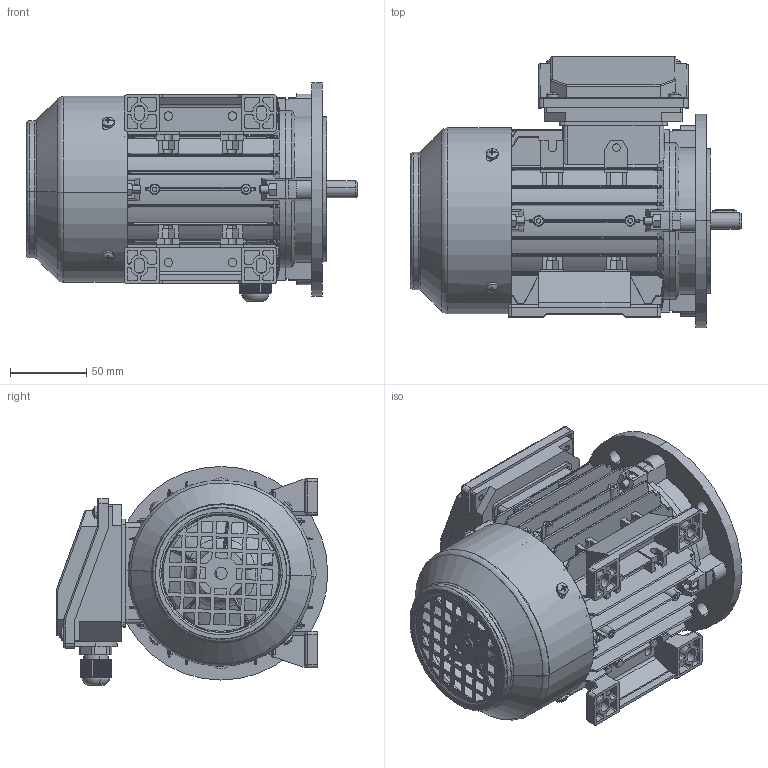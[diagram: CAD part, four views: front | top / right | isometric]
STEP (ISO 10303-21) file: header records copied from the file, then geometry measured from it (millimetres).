
FILE_DESCRIPTION (( 'STEP AP214' ), '1' );
FILE_NAME ('BMT1025.06C235.11.step', '2020-04-23T20:20:47', ( '' ), ( '' ), 'SwSTEP 2.0', 'SolidWorks 2019', '' );
FILE_SCHEMA (( 'AUTOMOTIVE_DESIGN' ));
Length unit declared in the file: millimetre
Products named in the file (1): BMT1025.06C235.11
Bounding box: 217 x 178 x 143.54 mm (x, y, z)
Volume: 543807.1 mm3; surface area: 427905.3 mm2
Topology: 36 solids, 36 shells, 3988 faces, 10501 edges, 6633 vertices
Faces by surface type: plane 1917, cylinder 1052, bspline 494, cone 316, torus 171, sphere 38
Entity records: 144771 total; most frequent: CARTESIAN_POINT 50214, ORIENTED_EDGE 20846, DIRECTION 18146, EDGE_CURVE 10423, VERTEX_POINT 6633, AXIS2_PLACEMENT_3D 6440, VECTOR 5266, LINE 5266
